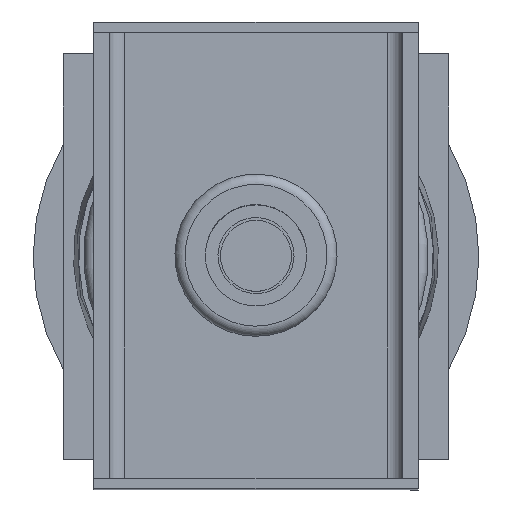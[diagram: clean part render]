
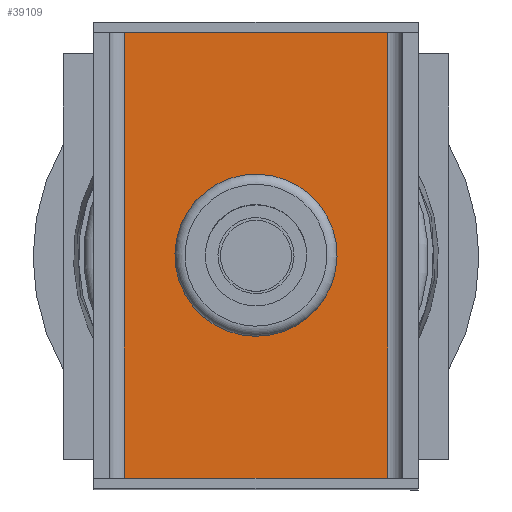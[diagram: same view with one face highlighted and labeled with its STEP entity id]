
A CAD part, top view. The second image highlights one B-rep face of the part: STEP entity #39109.
In plain terms, the highlighted planar face has unit normal (0, 0, 1).
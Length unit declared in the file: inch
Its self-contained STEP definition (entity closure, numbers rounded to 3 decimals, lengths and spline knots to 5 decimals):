
#38541=CARTESIAN_POINT('',(0.75,0.,0.1875));
#38542=VERTEX_POINT('',#38541);
#38543=CARTESIAN_POINT('',(0.0,0.0,0.1875));
#38544=DIRECTION('',(0.0,0.0,-1.0));
#38545=DIRECTION('',(-1.0,0.0,0.0));
#38546=AXIS2_PLACEMENT_3D('',#38543,#38544,#38545);
#38547=CIRCLE('',#38546,0.75);
#38548=EDGE_CURVE('',#38542,#38542,#38547,.T.);
#38686=CARTESIAN_POINT('',(1.625,-2.75,0.1875));
#38687=VERTEX_POINT('',#38686);
#38712=CARTESIAN_POINT('',(1.625,2.75,0.1875));
#38713=VERTEX_POINT('',#38712);
#38790=CARTESIAN_POINT('',(1.625,-2.75,0.1875));
#38791=DIRECTION('',(0.0,1.0,0.0));
#38792=VECTOR('',#38791,5.5);
#38793=LINE('',#38790,#38792);
#38794=EDGE_CURVE('',#38687,#38713,#38793,.T.);
#38922=CARTESIAN_POINT('',(-1.625,2.75,0.1875));
#38923=VERTEX_POINT('',#38922);
#38948=CARTESIAN_POINT('',(-1.625,-2.75,0.1875));
#38949=VERTEX_POINT('',#38948);
#39026=CARTESIAN_POINT('',(-1.625,2.75,0.1875));
#39027=DIRECTION('',(0.0,-1.0,0.0));
#39028=VECTOR('',#39027,5.5);
#39029=LINE('',#39026,#39028);
#39030=EDGE_CURVE('',#38923,#38949,#39029,.T.);
#39049=CARTESIAN_POINT('',(1.625,-2.75,0.1875));
#39050=DIRECTION('',(-1.0,0.0,0.0));
#39051=VECTOR('',#39050,3.25);
#39052=LINE('',#39049,#39051);
#39053=EDGE_CURVE('',#38687,#38949,#39052,.T.);
#39084=CARTESIAN_POINT('',(-1.625,2.75,0.1875));
#39085=DIRECTION('',(1.0,0.0,0.0));
#39086=VECTOR('',#39085,3.25);
#39087=LINE('',#39084,#39086);
#39088=EDGE_CURVE('',#38923,#38713,#39087,.T.);
#39095=CARTESIAN_POINT('',(0.,0.,0.1875));
#39096=DIRECTION('',(0.0,0.0,1.0));
#39097=DIRECTION('',(1.0,0.0,0.0));
#39098=AXIS2_PLACEMENT_3D('',#39095,#39096,#39097);
#39099=PLANE('',#39098);
#39100=ORIENTED_EDGE('',*,*,#39030,.T.);
#39101=ORIENTED_EDGE('',*,*,#39053,.F.);
#39102=ORIENTED_EDGE('',*,*,#38794,.T.);
#39103=ORIENTED_EDGE('',*,*,#39088,.F.);
#39104=EDGE_LOOP('',(#39100,#39101,#39102,#39103));
#39105=FACE_OUTER_BOUND('',#39104,.T.);
#39106=ORIENTED_EDGE('',*,*,#38548,.T.);
#39107=EDGE_LOOP('',(#39106));
#39108=FACE_BOUND('',#39107,.T.);
#39109=ADVANCED_FACE('',(#39105,#39108),#39099,.T.);
